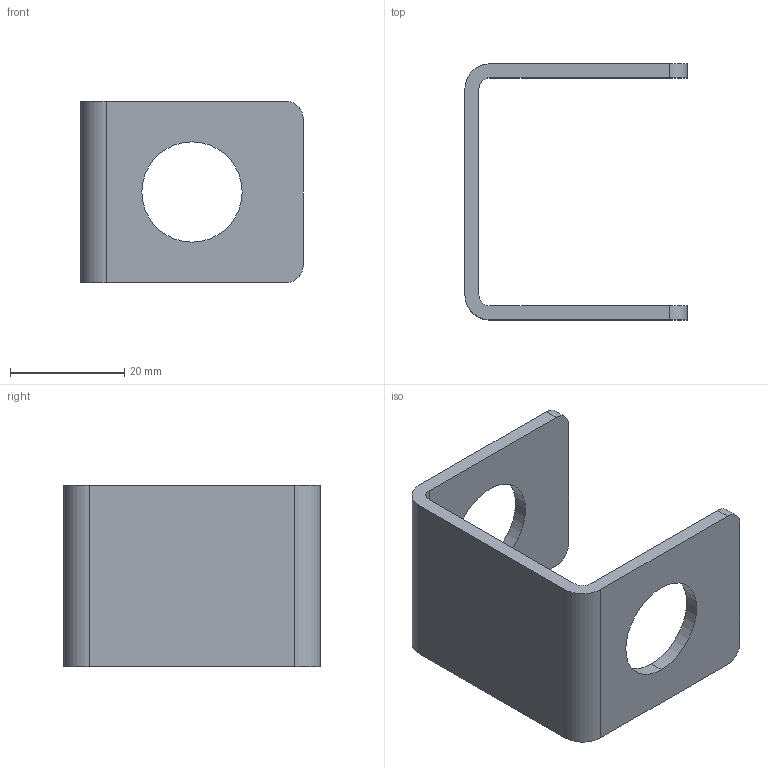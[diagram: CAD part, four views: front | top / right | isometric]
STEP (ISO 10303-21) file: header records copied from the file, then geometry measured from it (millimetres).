
FILE_DESCRIPTION (( 'STEP AP203' ), '1' );
FILE_NAME ('lrwbkb.STEP', '2010-10-12T14:55:15', ( 'Hoffman User' ), ( 'Hoffman Enclosures' ), 'SwSTEP 2.0', 'SolidWorks 2009', '' );
FILE_SCHEMA (( 'CONFIG_CONTROL_DESIGN' ));
Length unit declared in the file: inch
Products named in the file (1): lrwbkb
Bounding box: 38.86 x 44.81 x 31.75 mm (x, y, z)
Volume: 7771.3 mm3; surface area: 7294.3 mm2
Topology: 1 solids, 1 shells, 22 faces, 60 edges, 40 vertices
Faces by surface type: cylinder 12, plane 10
Entity records: 795 total; most frequent: DIRECTION 130, CARTESIAN_POINT 123, ORIENTED_EDGE 120, EDGE_CURVE 60, AXIS2_PLACEMENT_3D 47, VERTEX_POINT 40, VECTOR 36, LINE 36
